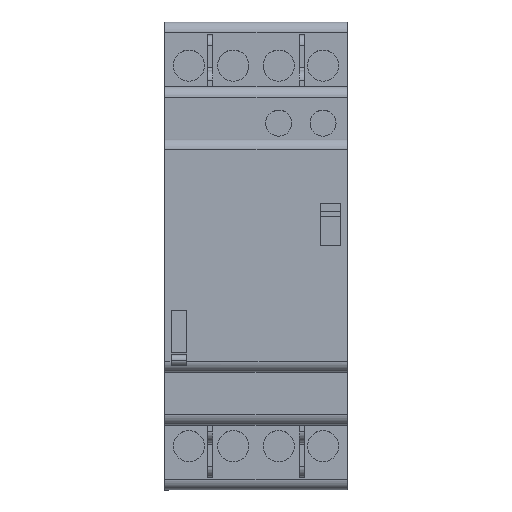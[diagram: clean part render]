
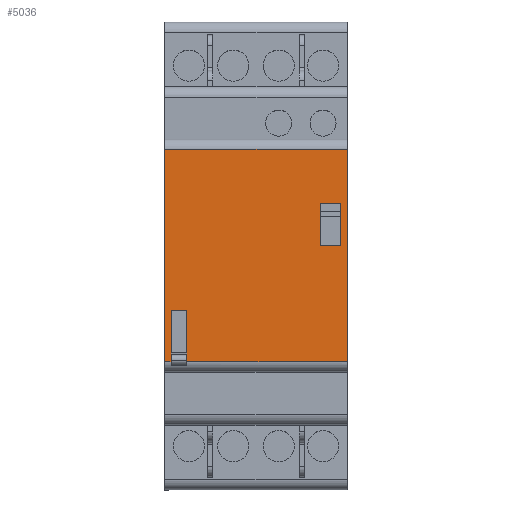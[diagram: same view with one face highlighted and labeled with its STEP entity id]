
A CAD part, top view. The second image highlights one B-rep face of the part: STEP entity #5036.
In plain terms, the highlighted planar face has unit normal (0, 0, 1).
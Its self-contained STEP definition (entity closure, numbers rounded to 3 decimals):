
#100 = ORIENTED_EDGE ( 'NONE', *, *, #428, .F. ) ;
#292 = CARTESIAN_POINT ( 'NONE',  ( 4.25, 65.423, 64.773 ) ) ;
#334 = DIRECTION ( 'NONE',  ( 0., -1., 0. ) ) ;
#344 = VERTEX_POINT ( 'NONE', #1574 ) ;
#359 = VERTEX_POINT ( 'NONE', #2632 ) ;
#381 = LINE ( 'NONE', #5919, #2523 ) ;
#428 = EDGE_CURVE ( 'NONE', #4187, #1073, #3995, .T. ) ;
#476 = CARTESIAN_POINT ( 'NONE',  ( 4.25, 34.373, 64.773 ) ) ;
#507 = CARTESIAN_POINT ( 'NONE',  ( 1.25, 26.212, 64.773 ) ) ;
#566 = PLANE ( 'NONE',  #2859 ) ;
#583 = LINE ( 'NONE', #476, #758 ) ;
#610 = VERTEX_POINT ( 'NONE', #4858 ) ;
#654 = EDGE_CURVE ( 'NONE', #344, #610, #5386, .T. ) ;
#758 = VECTOR ( 'NONE', #5156, 1000. ) ;
#788 = ORIENTED_EDGE ( 'NONE', *, *, #3838, .T. ) ;
#797 = CARTESIAN_POINT ( 'NONE',  ( 4.25, 24.573, 64.773 ) ) ;
#877 = LINE ( 'NONE', #292, #3122 ) ;
#905 = DIRECTION ( 'NONE',  ( -1., 0., 0. ) ) ;
#961 = LINE ( 'NONE', #2539, #1277 ) ;
#962 = EDGE_CURVE ( 'NONE', #6235, #1817, #4748, .T. ) ;
#975 = EDGE_CURVE ( 'NONE', #4867, #344, #3168, .T. ) ;
#983 = DIRECTION ( 'NONE',  ( 0., 1., 0. ) ) ;
#1073 = VERTEX_POINT ( 'NONE', #507 ) ;
#1173 = ORIENTED_EDGE ( 'NONE', *, *, #654, .F. ) ;
#1261 = EDGE_CURVE ( 'NONE', #1817, #359, #961, .T. ) ;
#1277 = VECTOR ( 'NONE', #4585, 1000. ) ;
#1300 = ORIENTED_EDGE ( 'NONE', *, *, #975, .F. ) ;
#1374 = ORIENTED_EDGE ( 'NONE', *, *, #2428, .F. ) ;
#1414 = CARTESIAN_POINT ( 'NONE',  ( 33.95, 54.998, 64.773 ) ) ;
#1478 = VECTOR ( 'NONE', #3275, 1000. ) ;
#1484 = VERTEX_POINT ( 'NONE', #5299 ) ;
#1485 = VECTOR ( 'NONE', #4678, 1000. ) ;
#1526 = EDGE_CURVE ( 'NONE', #610, #5416, #1805, .T. ) ;
#1574 = CARTESIAN_POINT ( 'NONE',  ( 29.95, 46.998, 64.773 ) ) ;
#1615 = ORIENTED_EDGE ( 'NONE', *, *, #4129, .F. ) ;
#1625 = CARTESIAN_POINT ( 'NONE',  ( 0., 24.573, 64.773 ) ) ;
#1707 = VECTOR ( 'NONE', #3848, 1000. ) ;
#1710 = EDGE_CURVE ( 'NONE', #6340, #6239, #2118, .T. ) ;
#1805 = LINE ( 'NONE', #5390, #1707 ) ;
#1817 = VERTEX_POINT ( 'NONE', #6274 ) ;
#1964 = DIRECTION ( 'NONE',  ( 1., 0., 0. ) ) ;
#1979 = EDGE_LOOP ( 'NONE', ( #1374, #2480, #2949, #5297, #6310, #2879, #6205, #788, #1615, #100 ) ) ;
#2015 = LINE ( 'NONE', #1414, #6219 ) ;
#2118 = LINE ( 'NONE', #1625, #4921 ) ;
#2367 = CARTESIAN_POINT ( 'NONE',  ( 33.95, 46.998, 64.773 ) ) ;
#2428 = EDGE_CURVE ( 'NONE', #4606, #4187, #583, .T. ) ;
#2480 = ORIENTED_EDGE ( 'NONE', *, *, #6226, .T. ) ;
#2489 = CARTESIAN_POINT ( 'NONE',  ( 35.2, 65.423, 64.773 ) ) ;
#2523 = VECTOR ( 'NONE', #1964, 1000. ) ;
#2539 = CARTESIAN_POINT ( 'NONE',  ( 0., 65.423, 64.773 ) ) ;
#2618 = CARTESIAN_POINT ( 'NONE',  ( 0., 65.423, 64.773 ) ) ;
#2632 = CARTESIAN_POINT ( 'NONE',  ( 35.2, 65.423, 64.773 ) ) ;
#2652 = EDGE_CURVE ( 'NONE', #3429, #6340, #877, .T. ) ;
#2760 = LINE ( 'NONE', #4272, #5451 ) ;
#2816 = EDGE_CURVE ( 'NONE', #6239, #359, #5108, .T. ) ;
#2859 = AXIS2_PLACEMENT_3D ( 'NONE', #2618, #5096, #6236 ) ;
#2879 = ORIENTED_EDGE ( 'NONE', *, *, #1261, .F. ) ;
#2940 = EDGE_LOOP ( 'NONE', ( #1300, #4454, #5188, #1173 ) ) ;
#2949 = ORIENTED_EDGE ( 'NONE', *, *, #2652, .T. ) ;
#2990 = CARTESIAN_POINT ( 'NONE',  ( 4.25, 34.373, 64.773 ) ) ;
#3122 = VECTOR ( 'NONE', #6539, 1000. ) ;
#3168 = LINE ( 'NONE', #4075, #1485 ) ;
#3230 = CARTESIAN_POINT ( 'NONE',  ( 0., 24.573, 64.773 ) ) ;
#3273 = VECTOR ( 'NONE', #334, 1000. ) ;
#3275 = DIRECTION ( 'NONE',  ( 1., 0., 0. ) ) ;
#3340 = CARTESIAN_POINT ( 'NONE',  ( 1.25, 65.423, 64.773 ) ) ;
#3429 = VERTEX_POINT ( 'NONE', #5037 ) ;
#3493 = DIRECTION ( 'NONE',  ( 0., -1., 0. ) ) ;
#3838 = EDGE_CURVE ( 'NONE', #6235, #1484, #381, .T. ) ;
#3848 = DIRECTION ( 'NONE',  ( 0., 1., 0. ) ) ;
#3857 = CARTESIAN_POINT ( 'NONE',  ( 29.95, 54.998, 64.773 ) ) ;
#3931 = LINE ( 'NONE', #3340, #3273 ) ;
#3995 = LINE ( 'NONE', #6036, #4166 ) ;
#4075 = CARTESIAN_POINT ( 'NONE',  ( 29.95, 54.998, 64.773 ) ) ;
#4129 = EDGE_CURVE ( 'NONE', #1073, #1484, #3931, .T. ) ;
#4166 = VECTOR ( 'NONE', #3493, 1000. ) ;
#4187 = VERTEX_POINT ( 'NONE', #4613 ) ;
#4272 = CARTESIAN_POINT ( 'NONE',  ( 4.25, 65.423, 64.773 ) ) ;
#4349 = CARTESIAN_POINT ( 'NONE',  ( 33.95, 54.998, 64.773 ) ) ;
#4409 = VECTOR ( 'NONE', #983, 1000. ) ;
#4454 = ORIENTED_EDGE ( 'NONE', *, *, #4627, .F. ) ;
#4585 = DIRECTION ( 'NONE',  ( 1., 0., 0. ) ) ;
#4606 = VERTEX_POINT ( 'NONE', #2990 ) ;
#4613 = CARTESIAN_POINT ( 'NONE',  ( 1.25, 34.373, 64.773 ) ) ;
#4627 = EDGE_CURVE ( 'NONE', #5416, #4867, #2015, .T. ) ;
#4678 = DIRECTION ( 'NONE',  ( 0., -1., 0. ) ) ;
#4748 = LINE ( 'NONE', #6116, #6198 ) ;
#4839 = DIRECTION ( 'NONE',  ( 0., -1., 0. ) ) ;
#4858 = CARTESIAN_POINT ( 'NONE',  ( 33.95, 46.998, 64.773 ) ) ;
#4867 = VERTEX_POINT ( 'NONE', #3857 ) ;
#4921 = VECTOR ( 'NONE', #5827, 1000. ) ;
#5036 = ADVANCED_FACE ( 'NONE', ( #6133, #5169 ), #566, .F. ) ;
#5037 = CARTESIAN_POINT ( 'NONE',  ( 4.25, 26.212, 64.773 ) ) ;
#5096 = DIRECTION ( 'NONE',  ( 0., 0., -1. ) ) ;
#5108 = LINE ( 'NONE', #2489, #4409 ) ;
#5113 = DIRECTION ( 'NONE',  ( 0., 1., 0. ) ) ;
#5156 = DIRECTION ( 'NONE',  ( -1., 0., 0. ) ) ;
#5169 = FACE_OUTER_BOUND ( 'NONE', #1979, .T. ) ;
#5188 = ORIENTED_EDGE ( 'NONE', *, *, #1526, .F. ) ;
#5240 = CARTESIAN_POINT ( 'NONE',  ( 35.2, 24.573, 64.773 ) ) ;
#5297 = ORIENTED_EDGE ( 'NONE', *, *, #1710, .T. ) ;
#5299 = CARTESIAN_POINT ( 'NONE',  ( 1.25, 24.573, 64.773 ) ) ;
#5386 = LINE ( 'NONE', #2367, #1478 ) ;
#5390 = CARTESIAN_POINT ( 'NONE',  ( 33.95, 54.998, 64.773 ) ) ;
#5416 = VERTEX_POINT ( 'NONE', #4349 ) ;
#5451 = VECTOR ( 'NONE', #4839, 1000. ) ;
#5827 = DIRECTION ( 'NONE',  ( 1., 0., 0. ) ) ;
#5919 = CARTESIAN_POINT ( 'NONE',  ( 0., 24.573, 64.773 ) ) ;
#6036 = CARTESIAN_POINT ( 'NONE',  ( 1.25, 34.373, 64.773 ) ) ;
#6116 = CARTESIAN_POINT ( 'NONE',  ( 0., 65.423, 64.773 ) ) ;
#6133 = FACE_BOUND ( 'NONE', #2940, .T. ) ;
#6198 = VECTOR ( 'NONE', #5113, 1000. ) ;
#6205 = ORIENTED_EDGE ( 'NONE', *, *, #962, .F. ) ;
#6219 = VECTOR ( 'NONE', #905, 1000. ) ;
#6226 = EDGE_CURVE ( 'NONE', #4606, #3429, #2760, .T. ) ;
#6235 = VERTEX_POINT ( 'NONE', #3230 ) ;
#6236 = DIRECTION ( 'NONE',  ( 1., 0., 0. ) ) ;
#6239 = VERTEX_POINT ( 'NONE', #5240 ) ;
#6274 = CARTESIAN_POINT ( 'NONE',  ( 0., 65.423, 64.773 ) ) ;
#6310 = ORIENTED_EDGE ( 'NONE', *, *, #2816, .T. ) ;
#6340 = VERTEX_POINT ( 'NONE', #797 ) ;
#6539 = DIRECTION ( 'NONE',  ( 0., -1., 0. ) ) ;
